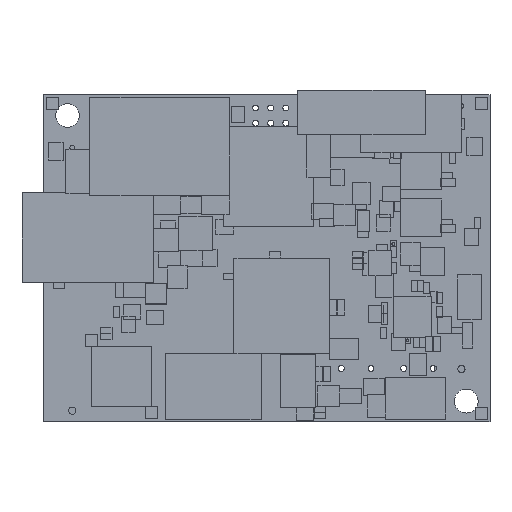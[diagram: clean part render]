
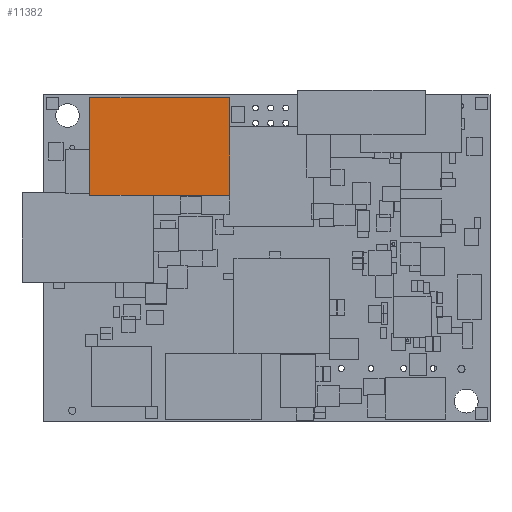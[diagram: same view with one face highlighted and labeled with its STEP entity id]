
A CAD part, top view. The second image highlights one B-rep face of the part: STEP entity #11382.
In plain terms, the highlighted planar face has unit normal (0, 0, 1).
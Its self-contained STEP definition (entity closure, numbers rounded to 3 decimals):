
#2652 = VECTOR ( 'NONE', #7750, 1000. ) ;
#4402 = CARTESIAN_POINT ( 'NONE',  ( 15.5, -5., 3.268 ) ) ;
#5298 = LINE ( 'NONE', #25720, #40834 ) ;
#7617 = ORIENTED_EDGE ( 'NONE', *, *, #65043, .T. ) ;
#7750 = DIRECTION ( 'NONE',  ( 0., 1., 0. ) ) ;
#8022 = VERTEX_POINT ( 'NONE', #23140 ) ;
#11382 = ADVANCED_FACE ( 'NONE', ( #13148 ), #16964, .T. ) ;
#13148 = FACE_OUTER_BOUND ( 'NONE', #52008, .T. ) ;
#14028 = DIRECTION ( 'NONE',  ( -1., 0., 0. ) ) ;
#14944 = CARTESIAN_POINT ( 'NONE',  ( 27.255, 3.005, 3.268 ) ) ;
#16964 = PLANE ( 'NONE',  #71340 ) ;
#19103 = LINE ( 'NONE', #70728, #44301 ) ;
#22884 = VECTOR ( 'NONE', #73168, 1000. ) ;
#23140 = CARTESIAN_POINT ( 'NONE',  ( 27.255, -13.4, 3.268 ) ) ;
#25456 = CARTESIAN_POINT ( 'NONE',  ( 27.255, -13.4, 3.268 ) ) ;
#25720 = CARTESIAN_POINT ( 'NONE',  ( 27.255, 3.005, 3.268 ) ) ;
#30535 = VERTEX_POINT ( 'NONE', #14944 ) ;
#30905 = CARTESIAN_POINT ( 'NONE',  ( 3.745, -13.4, 3.268 ) ) ;
#34464 = DIRECTION ( 'NONE',  ( 0., -1., 0. ) ) ;
#34621 = EDGE_CURVE ( 'NONE', #8022, #30535, #59631, .T. ) ;
#34738 = EDGE_CURVE ( 'NONE', #30535, #58050, #5298, .T. ) ;
#38785 = LINE ( 'NONE', #30905, #22884 ) ;
#40834 = VECTOR ( 'NONE', #14028, 1000. ) ;
#40993 = DIRECTION ( 'NONE',  ( 0., -1., 0. ) ) ;
#44301 = VECTOR ( 'NONE', #40993, 1000. ) ;
#46114 = DIRECTION ( 'NONE',  ( 0., 0., 1. ) ) ;
#50166 = CARTESIAN_POINT ( 'NONE',  ( 3.745, -13.4, 3.268 ) ) ;
#52008 = EDGE_LOOP ( 'NONE', ( #58499, #67280, #7617, #73846 ) ) ;
#56063 = CARTESIAN_POINT ( 'NONE',  ( 3.745, 3.005, 3.268 ) ) ;
#56762 = VERTEX_POINT ( 'NONE', #50166 ) ;
#58050 = VERTEX_POINT ( 'NONE', #56063 ) ;
#58499 = ORIENTED_EDGE ( 'NONE', *, *, #34738, .T. ) ;
#59631 = LINE ( 'NONE', #25456, #2652 ) ;
#65043 = EDGE_CURVE ( 'NONE', #56762, #8022, #38785, .T. ) ;
#67280 = ORIENTED_EDGE ( 'NONE', *, *, #71443, .T. ) ;
#70728 = CARTESIAN_POINT ( 'NONE',  ( 3.745, 3.005, 3.268 ) ) ;
#71340 = AXIS2_PLACEMENT_3D ( 'NONE', #4402, #46114, #34464 ) ;
#71443 = EDGE_CURVE ( 'NONE', #58050, #56762, #19103, .T. ) ;
#73168 = DIRECTION ( 'NONE',  ( 1., 0., 0. ) ) ;
#73846 = ORIENTED_EDGE ( 'NONE', *, *, #34621, .T. ) ;
